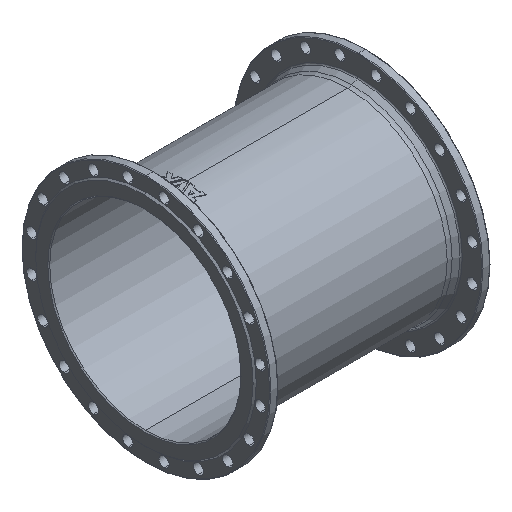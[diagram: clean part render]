
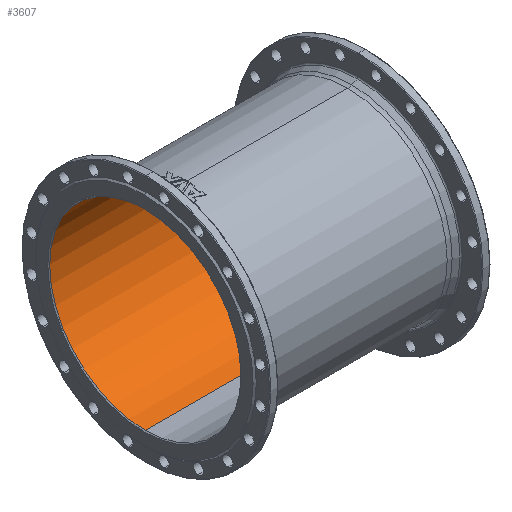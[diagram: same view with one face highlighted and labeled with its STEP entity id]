
A CAD part, isometric view. The second image highlights one B-rep face of the part: STEP entity #3607.
In plain terms, the highlighted cylindrical face has radius 300 mm (diameter 600 mm), a partial arc.
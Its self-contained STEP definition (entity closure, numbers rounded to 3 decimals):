
#283 = LINE ( 'NONE', #2192, #3656 ) ;
#321 = CIRCLE ( 'NONE', #4334, 300. ) ;
#553 = EDGE_LOOP ( 'NONE', ( #716, #2091, #3327, #4577 ) ) ;
#630 = EDGE_CURVE ( 'Defeatured_0_2+Defeatured_0_63+Defeatured_0_63+Defeatured_0_63', #1419, #1943, #321, .T. ) ;
#716 = ORIENTED_EDGE ( 'NONE', *, *, #1710, .F. ) ;
#837 = VERTEX_POINT ( 'NONE', #5931 ) ;
#890 = DIRECTION ( 'NONE',  ( 0., 0., 1. ) ) ;
#974 = LINE ( 'NONE', #5192, #2154 ) ;
#1210 = DIRECTION ( 'NONE',  ( -1., 0., 0. ) ) ;
#1327 = CARTESIAN_POINT ( 'NONE',  ( 0., 0., 0. ) ) ;
#1387 = DIRECTION ( 'NONE',  ( -1., 0., 0. ) ) ;
#1419 = VERTEX_POINT ( 'NONE', #2435 ) ;
#1710 = EDGE_CURVE ( 'NONE', #1419, #3613, #283, .T. ) ;
#1943 = VERTEX_POINT ( 'NONE', #2174 ) ;
#2091 = ORIENTED_EDGE ( 'NONE', *, *, #630, .T. ) ;
#2154 = VECTOR ( 'NONE', #4815, 1000. ) ;
#2174 = CARTESIAN_POINT ( 'NONE',  ( 347., 0., 300. ) ) ;
#2192 = CARTESIAN_POINT ( 'NONE',  ( 0., 0., -300. ) ) ;
#2263 = DIRECTION ( 'NONE',  ( 0., 0., 1. ) ) ;
#2435 = CARTESIAN_POINT ( 'NONE',  ( 347., 0., -300. ) ) ;
#3327 = ORIENTED_EDGE ( 'NONE', *, *, #3561, .T. ) ;
#3561 = EDGE_CURVE ( 'NONE', #1943, #837, #974, .T. ) ;
#3607 = ADVANCED_FACE ( 'Defeatured_0_2', ( #4277 ), #4725, .F. ) ;
#3613 = VERTEX_POINT ( 'NONE', #5701 ) ;
#3656 = VECTOR ( 'NONE', #4120, 1000. ) ;
#4025 = CIRCLE ( 'NONE', #5534, 300. ) ;
#4120 = DIRECTION ( 'NONE',  ( -1., 0., 0. ) ) ;
#4277 = FACE_OUTER_BOUND ( 'NONE', #553, .T. ) ;
#4334 = AXIS2_PLACEMENT_3D ( 'NONE', #4708, #4673, #890 ) ;
#4577 = ORIENTED_EDGE ( 'NONE', *, *, #6106, .T. ) ;
#4673 = DIRECTION ( 'NONE',  ( 1., 0., 0. ) ) ;
#4708 = CARTESIAN_POINT ( 'NONE',  ( 347., 0., 0. ) ) ;
#4725 = CYLINDRICAL_SURFACE ( 'NONE', #5268, 300. ) ;
#4815 = DIRECTION ( 'NONE',  ( -1., 0., 0. ) ) ;
#5015 = CARTESIAN_POINT ( 'NONE',  ( -347., 0., 0. ) ) ;
#5192 = CARTESIAN_POINT ( 'NONE',  ( 0., 0., 300. ) ) ;
#5268 = AXIS2_PLACEMENT_3D ( 'NONE', #1327, #1387, #2263 ) ;
#5534 = AXIS2_PLACEMENT_3D ( 'NONE', #5015, #1210, #6059 ) ;
#5701 = CARTESIAN_POINT ( 'NONE',  ( -347., 0., -300. ) ) ;
#5931 = CARTESIAN_POINT ( 'NONE',  ( -347., 0., 300. ) ) ;
#6059 = DIRECTION ( 'NONE',  ( 0., 0., -1. ) ) ;
#6106 = EDGE_CURVE ( 'Defeatured_0_2+Defeatured_0_32+Defeatured_0_32+Defeatured_0_32', #837, #3613, #4025, .T. ) ;
